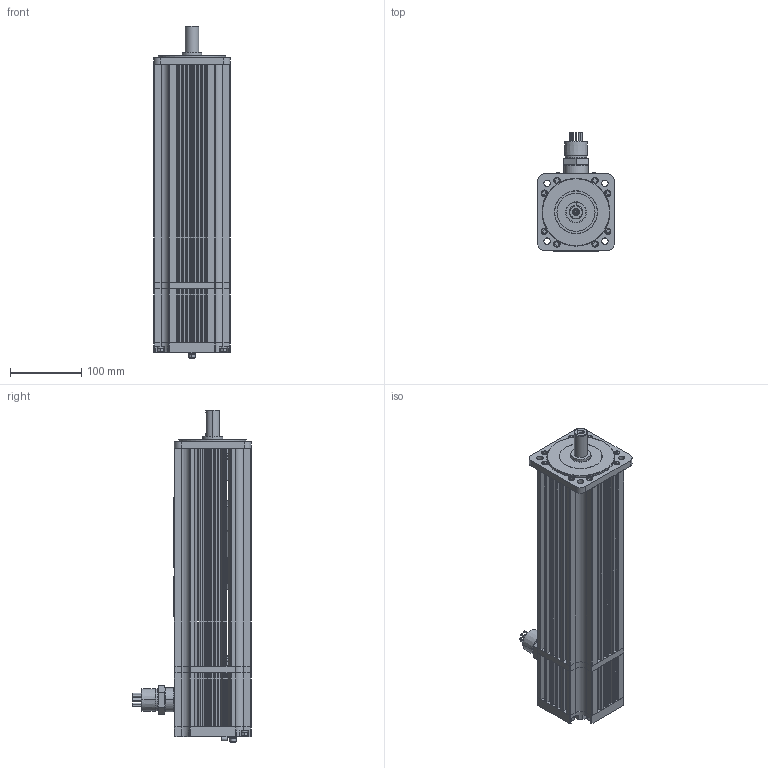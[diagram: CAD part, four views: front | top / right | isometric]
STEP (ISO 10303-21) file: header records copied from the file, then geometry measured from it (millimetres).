
FILE_DESCRIPTION (( 'STEP AP203' ), '1' );
FILE_NAME ('M443-KNNB-CT08.STEP', '2011-08-22T14:48:41', ( '' ), ( '' ), 'SwSTEP 2.0', 'SolidWorks 2011', '' );
FILE_SCHEMA (( 'CONFIG_CONTROL_DESIGN' ));
Length unit declared in the file: inch
Products named in the file (1): M443-KNNB-CT08
Bounding box: 108 x 166.17 x 466.67 mm (x, y, z)
Surface area: 399553.8 mm2 (no closed solid volume)
Topology: 0 solids, 230 shells, 1901 faces, 6517 edges, 4794 vertices
Faces by surface type: plane 909, cylinder 704, cone 168, torus 66, bspline 52, sphere 2
Entity records: 79423 total; most frequent: CARTESIAN_POINT 24239, DIRECTION 11528, ORIENTED_EDGE 9748, EDGE_CURVE 6472, VERTEX_POINT 4791, LINE 3858, VECTOR 3858, AXIS2_PLACEMENT_3D 3835
